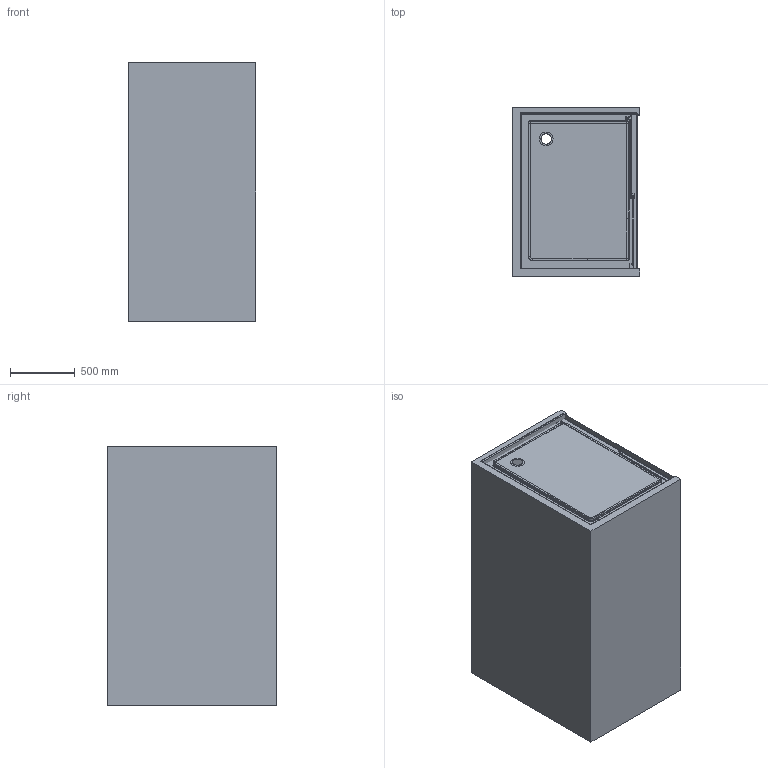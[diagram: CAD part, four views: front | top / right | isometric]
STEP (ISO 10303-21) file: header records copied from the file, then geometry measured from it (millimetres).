
FILE_DESCRIPTION((''),'2;1');
FILE_NAME('1631ZZZ_ASM_ASM_ASM_6_ASM','2019-08-23T',('Administrator'),(''),'CREO PARAMETRIC BY PTC INC, 2014190','CREO PARAMETRIC BY PTC INC, 2014190','');
FILE_SCHEMA(('AUTOMOTIVE_DESIGN { 1 0 10303 214 1 1 1 1 }'));
Length unit declared in the file: millimetre
Products named in the file (41): 294_G_6_1_1_1_1; PRT00252_G_6_1_1_1_1; 296_G_3_1_1_2_1; L295_G_3_1_1_1_1; Q_G_5_1_1_1_2; 530_G_2_1_1_1_1; YG_1_1_1_1_1; HKI_1_1_1_1_1; XLC_1_1_1_1_1; 1200_2_1_1_1_1; PRT0025_3_1_1_1_1; LZ1_5_1_1_1_1; LZ2_2_1_1_1_1; LZ3_2_1_1_1_1; LZ4_4_1_1_1_1; LZZ_ASM_9_ASM_1_ASM_1_ASM_1_ASM_ASM; YM_ASM_8_ASM_1_ASM_1_ASM_1_ASM__ASM; GZ1_5_1_1_1_1; GZ2_4_1_1_1_1; LSS_2_1_1_1_1; DLZ_ASM_14_ASM_1_ASM_1_ASM_1_AS_ASM; 1641_ASM_1_ASM_1_ASM_1_ASM_1_ASM; 1631_ASM_ASM_1_ASM_1_ASM_1_ASM; 1DST_1_1; LSK_A_A_T_ASM_1_ASM_1_ASM; 1631_ASM_ASM_3_ASM_1_ASM; 02009-1_3; PRT0012HHH_1; C_PRT0001__1__1_1_1; C_PRT0002__1__1_1_1; C_PRT0004__1__1_1_1; C_PRT0005__1__1_1_1; C_PRT0006__1__1_1_1; C_PRT0003__1__1_1_1; C_ASM0003__ASM_1__ASM_1_ASM_1_ASM; 03009_ASM_1_ASM_1_ASM; 03009_ASM_1_ASM_ASM; CITIIAO; PRT0001; L-258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
Assembly tree (50 placements, depth 8):
  1631ZZZ_ASM_ASM_ASM_6_ASM
    1631_ASM_ASM_3_ASM_1_ASM
      1631_ASM_ASM_1_ASM_1_ASM_1_ASM
        1641_ASM_1_ASM_1_ASM_1_ASM_1_ASM
          DLZ_ASM_14_ASM_1_ASM_1_ASM_1_AS_ASM
            294_G_6_1_1_1_1
            PRT00252_G_6_1_1_1_1
            296_G_3_1_1_2_1
            L295_G_3_1_1_1_1
            Q_G_5_1_1_1_2
            530_G_2_1_1_1_1
            YG_1_1_1_1_1
            HKI_1_1_1_1_1
            XLC_1_1_1_1_1
            1200_2_1_1_1_1
            YM_ASM_8_ASM_1_ASM_1_ASM_1_ASM__ASM
              PRT0025_3_1_1_1_1
              LZZ_ASM_9_ASM_1_ASM_1_ASM_1_ASM_ASM  x2
                LZ1_5_1_1_1_1
                LZ2_2_1_1_1_1
                LZ3_2_1_1_1_1
                LZ4_4_1_1_1_1
            GZ1_5_1_1_1_1
            GZ2_4_1_1_1_1
            LSS_2_1_1_1_1
      1DST_1_1  x2
      LSK_A_A_T_ASM_1_ASM_1_ASM  x6
    02009-1_3
    PRT0012HHH_1
    03009_ASM_1_ASM_ASM
      03009_ASM_1_ASM_1_ASM
        C_PRT0001__1__1_1_1  x2
        C_PRT0002__1__1_1_1
        C_PRT0004__1__1_1_1
        C_ASM0003__ASM_1__ASM_1_ASM_1_ASM
          C_PRT0005__1__1_1_1
          C_PRT0006__1__1_1_1
          C_PRT0003__1__1_1_1  x2
    CITIIAO
    PRT0001
    L-258
Bounding box: 979.47 x 1305.7 x 1990 mm (x, y, z)
Volume: 397025270.3 mm3; surface area: 22262720.2 mm2
Topology: 39 solids, 39 shells, 1246 faces, 3184 edges, 1992 vertices
Faces by surface type: cylinder 546, plane 527, sphere 63, torus 60, bspline 22, cone 14, revolution 14
Entity records: 37548 total; most frequent: CARTESIAN_POINT 7836, DIRECTION 6142, ORIENTED_EDGE 5630, EDGE_CURVE 2815, AXIS2_PLACEMENT_3D 2268, VERTEX_POINT 1785, VECTOR 1598, LINE 1598
